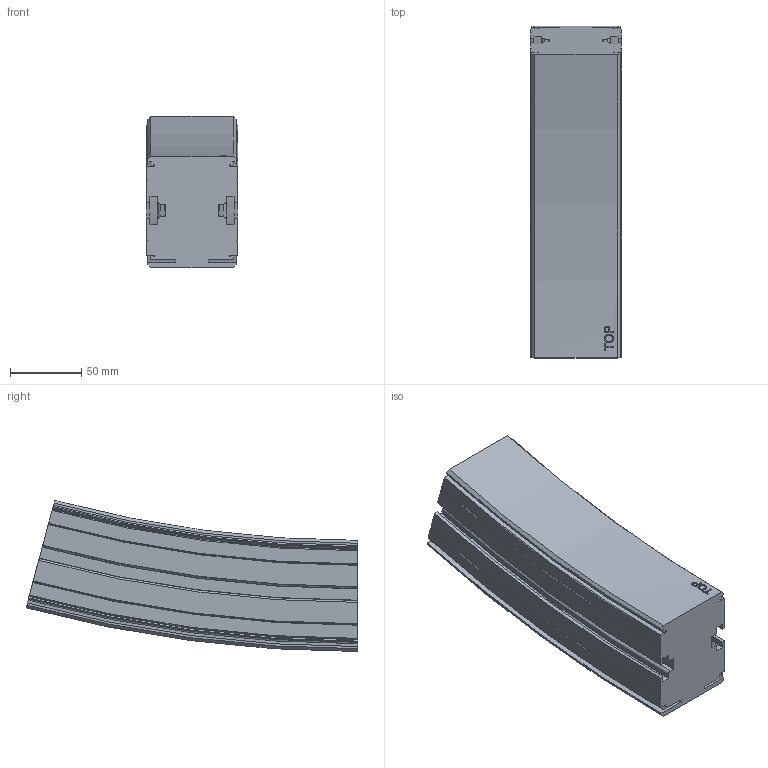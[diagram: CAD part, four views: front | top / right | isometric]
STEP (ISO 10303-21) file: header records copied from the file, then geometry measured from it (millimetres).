
FILE_DESCRIPTION(/* description */ ('VERTIKALKURVA S620 R860'),/* implementation_level */ '2;1');
FILE_NAME(/* name */ '\\carryline.intra\privat\users\mathias\Desktop\Tillfälliga filer\620-5695+620-2000-UPP-01.stp',/* time_stamp */ '2018-12-06T07:26:45+01:00',/* author */ ('MD'),/* organization */ ('CARRYLINE'),/* preprocessor_version */ 'ST-DEVELOPER v17',/* originating_system */ 'Autodesk Inventor 2018',/* authorisation */ '');
FILE_SCHEMA (('AUTOMOTIVE_DESIGN { 1 0 10303 214 3 1 1 }'));
Length unit declared in the file: millimetre
Products named in the file (1): 620-5695+620-2000-UPP-01
Bounding box: 64 x 232.94 x 106.01 mm (x, y, z)
Volume: 1005673.3 mm3; surface area: 117863.9 mm2
Topology: 1 solids, 1 shells, 149 faces, 426 edges, 284 vertices
Faces by surface type: plane 54, cylinder 37, torus 28, cone 16, bspline 14
Entity records: 9548 total; most frequent: CARTESIAN_POINT 5528, ORIENTED_EDGE 852, DIRECTION 836, EDGE_CURVE 426, AXIS2_PLACEMENT_3D 315, VERTEX_POINT 284, LINE 206, VECTOR 206
